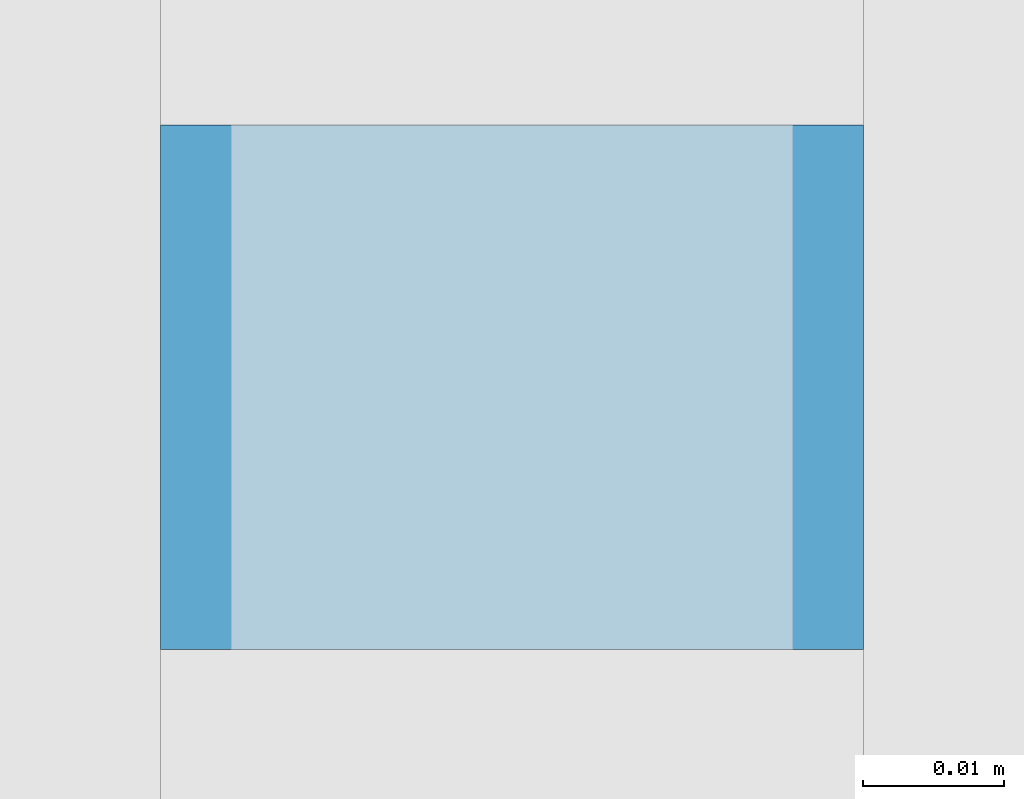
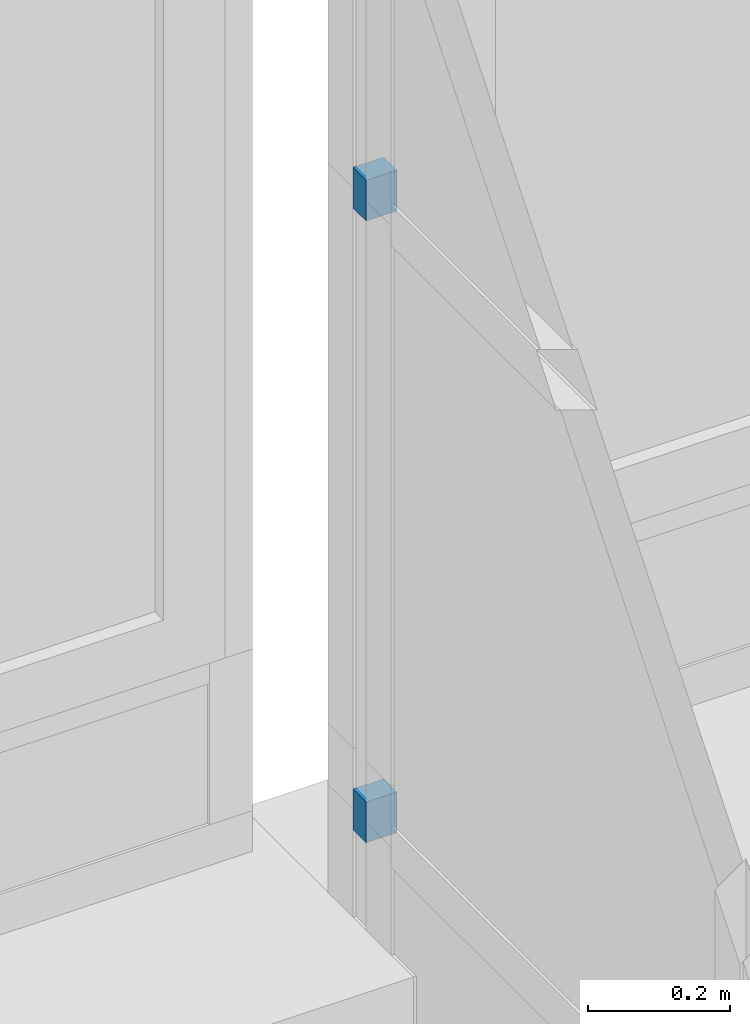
# One storey, part 25 of 97: 2 members, 1 element without a shape of its own.
"""IFC4 building model written with IfcOpenShell, lengths in metres."""

from ifc_helpers import new_model, entity, si_unit, converted_unit, derived_unit, direction, frame, origin, place, context, subcontext, project, spatial, indexed_curve, outline, extrude, source, transform, mapped, material, type_object, type_shapes, element, aggregate, save


model = new_model("IFC4")

# Units and contexts
model_context = context("Model", 3, precision=1e-05, world=origin(), true_north=direction((6.12303176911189e-17, 1.0)))
body_context = subcontext(model_context, "Body", "Model", "MODEL_VIEW")
ifc_project = project(units=[si_unit("LENGTHUNIT", "METRE"), si_unit("AREAUNIT", "SQUARE_METRE"), si_unit("VOLUMEUNIT", "CUBIC_METRE"), converted_unit("PLANEANGLEUNIT", "DEGREE", entity("IfcRatioMeasure", 0.0174532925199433), si_unit("PLANEANGLEUNIT", "RADIAN"), dimensions=[0, 0, 0, 0, 0, 0, 0]), si_unit("MASSUNIT", "GRAM", prefix="KILO"), derived_unit("MASSDENSITYUNIT", [(si_unit("MASSUNIT", "GRAM", prefix="KILO"), 1), (si_unit("LENGTHUNIT", "METRE"), -3)]), derived_unit("MOMENTOFINERTIAUNIT", [(si_unit("LENGTHUNIT", "METRE"), 4)]), si_unit("TIMEUNIT", "SECOND"), si_unit("FREQUENCYUNIT", "HERTZ"), si_unit("THERMODYNAMICTEMPERATUREUNIT", "DEGREE_CELSIUS"), derived_unit("THERMALTRANSMITTANCEUNIT", [(si_unit("MASSUNIT", "GRAM", prefix="KILO"), 1), (si_unit("THERMODYNAMICTEMPERATUREUNIT", "KELVIN"), -1), (si_unit("TIMEUNIT", "SECOND"), -3)]), derived_unit("VOLUMETRICFLOWRATEUNIT", [(si_unit("LENGTHUNIT", "METRE"), 3), (si_unit("TIMEUNIT", "SECOND"), -1)]), si_unit("ELECTRICCURRENTUNIT", "AMPERE"), si_unit("ELECTRICVOLTAGEUNIT", "VOLT"), si_unit("POWERUNIT", "WATT"), si_unit("FORCEUNIT", "NEWTON", prefix="KILO"), si_unit("ILLUMINANCEUNIT", "LUX"), si_unit("LUMINOUSFLUXUNIT", "LUMEN"), si_unit("LUMINOUSINTENSITYUNIT", "CANDELA"), derived_unit("USERDEFINED", [(si_unit("MASSUNIT", "GRAM", prefix="KILO"), -1), (si_unit("LENGTHUNIT", "METRE"), -2), (si_unit("TIMEUNIT", "SECOND"), 3), (si_unit("LUMINOUSFLUXUNIT", "LUMEN"), 1)]), derived_unit("LINEARVELOCITYUNIT", [(si_unit("LENGTHUNIT", "METRE"), 1), (si_unit("TIMEUNIT", "SECOND"), -1)]), si_unit("PRESSUREUNIT", "PASCAL"), derived_unit("USERDEFINED", [(si_unit("LENGTHUNIT", "METRE"), -2), (si_unit("MASSUNIT", "GRAM", prefix="KILO"), 1), (si_unit("TIMEUNIT", "SECOND"), -2)]), derived_unit("LINEARFORCEUNIT", [(si_unit("MASSUNIT", "GRAM", prefix="KILO"), 1), (si_unit("LENGTHUNIT", "METRE"), 1), (si_unit("TIMEUNIT", "SECOND"), -2), (si_unit("LENGTHUNIT", "METRE"), -1)]), derived_unit("PLANARFORCEUNIT", [(si_unit("MASSUNIT", "GRAM", prefix="KILO"), 1), (si_unit("LENGTHUNIT", "METRE"), 1), (si_unit("TIMEUNIT", "SECOND"), -2), (si_unit("LENGTHUNIT", "METRE"), -2)])], contexts=[model_context])

# Site, building, storey
site_placement = place(None, origin())
site = spatial("IfcSite", under=ifc_project, at=site_placement, Name="Default", CompositionType="ELEMENT")
building_placement = place(site_placement, origin())
building = spatial("IfcBuilding", under=site, at=building_placement, Name="HOTEL CONSULAIRE BOULOGNE SUR MER", CompositionType="ELEMENT")
storey_placement = place(building_placement, frame((0.0, 0.0, 3.62152697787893)))
storey = spatial("IfcBuildingStorey", under=building, at=storey_placement, Name="Niveau 1", CompositionType="ELEMENT", Elevation=3.62152697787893)

# Curtain wall, members
curtain_wall_type = type_object("IfcCurtainWallType", Name="Mur-rideau:Simple panneau", PredefinedType="NOTDEFINED")
curtain_wall_placement = place(storey_placement, frame((0.0, 0.0, -3.62152697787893)))
curtain_wall = element("IfcCurtainWall", 1, at=curtain_wall_placement, inside=storey, type_object=curtain_wall_type, Name="Mur-rideau:Simple panneau", ObjectType="Mur-rideau:Simple panneau", PredefinedType="NOTDEFINED")
ifc_material = material(Name="PVC, souple", Category="Plastique")
member_type = type_object("IfcMemberType", Name="Meneau rectangulaire:50 x 35 pvc gris", PredefinedType="MULLION", material=ifc_material)
shared_shape = source(origin(), body_context, "Body", "SweptSolid", [
    extrude(outline(indexed_curve([(-0.025, -0.035), (0.025, -0.035), (0.025, 0.035), (-0.025, 0.035), (-0.025, -0.035)], self_intersect=False)), frame((0.0, -0.025, -0.0373081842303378), z_axis=(0.0, 0.0, 1.0), x_axis=(0.0, -1.0, 0.0)), (0.0, 0.0, 1.0), 0.0373081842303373),
])
type_shapes(member_type, [shared_shape])
member_1_placement = place(storey_placement, frame((-9.64962464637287, -10.2853241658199, 0.976960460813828), z_axis=(0.0, 1.0, 0.0), x_axis=(0.0, 0.0, 1.0)))
member_1 = element("IfcMember", 2, at=member_1_placement, type_object=member_type, material=ifc_material, Name="Meneau rectangulaire:50 x 35 pvc gris", ObjectType="Meneau rectangulaire:50 x 35 pvc gris", PredefinedType="MULLION", context=body_context, shape_type="MappedRepresentation", body=[
    mapped(shared_shape, transform((0.0, 0.0, 0.0), scale=1.0)),
])
member_2_placement = place(storey_placement, frame((-9.64962464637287, -10.2853241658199, 2.04596046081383), z_axis=(0.0, 1.0, 0.0), x_axis=(0.0, 0.0, 1.0)))
member_2 = element("IfcMember", 3, at=member_2_placement, type_object=member_type, material=ifc_material, Name="Meneau rectangulaire:50 x 35 pvc gris", ObjectType="Meneau rectangulaire:50 x 35 pvc gris", PredefinedType="MULLION", context=body_context, shape_type="MappedRepresentation", body=[
    mapped(shared_shape, transform((0.0, 0.0, 0.0), scale=1.0)),
])
aggregate(curtain_wall, [member_1, member_2])

save(model, "model.ifc")
